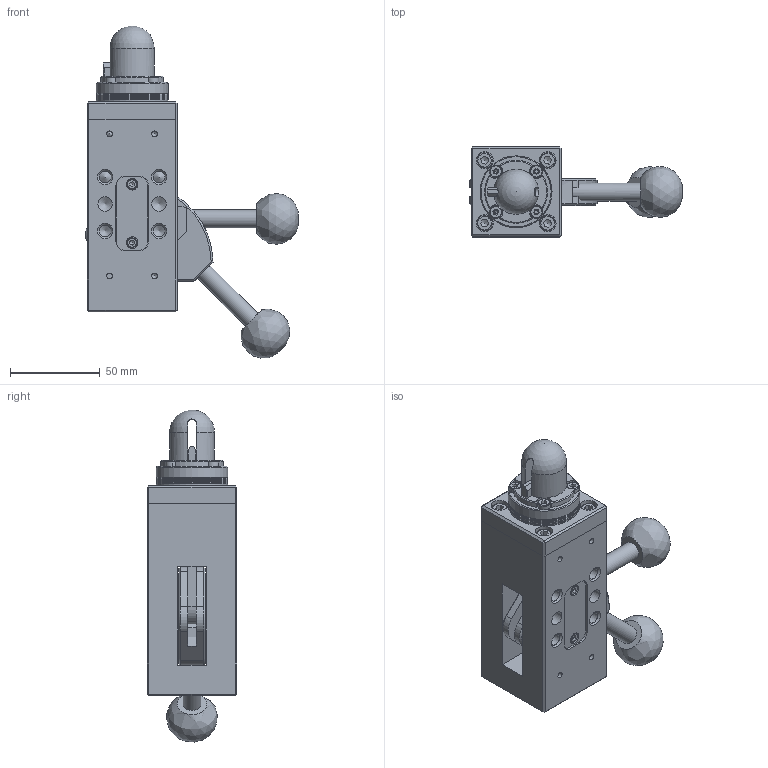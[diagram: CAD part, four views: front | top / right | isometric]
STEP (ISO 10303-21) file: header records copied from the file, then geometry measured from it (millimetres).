
FILE_DESCRIPTION(/* description */ (''),/* implementation_level */ '2;1');
FILE_NAME(/* name */ 'S:\Tom\INVENTOR FILES\AUTOMOTIVE\UNDERBODY CLAMPS\XPCB\SIMPLIFIED MODELS\STEP\XPCB-25-01-NS.stp',/* time_stamp */ '2021-06-08T10:19:54+01:00',/* author */ ('RWilson'),/* organization */ (''),/* preprocessor_version */ 'ST-DEVELOPER v18.1',/* originating_system */ 'Autodesk Inventor 2021',/* authorisation */ '');
FILE_SCHEMA (('AUTOMOTIVE_DESIGN { 1 0 10303 214 3 1 1 }'));
Length unit declared in the file: millimetre
Products named in the file (9): XPCB-25-01; XPCB - BODY; XPCB - HANDLE; XPCB - TOP PLATE; XPCB - 1MM SHIM; XPCB - 0.5MM SHIM; XPCB - 25MM CLAMPING RING & PIN; XPCB - 25MM HOOK; XPCB - BLANKING COVER
Assembly tree (13 placements, depth 2):
  XPCB-25-01
    XPCB - BODY
    XPCB - HANDLE  x2
    XPCB - TOP PLATE
    XPCB - 0.5MM SHIM  x2
    XPCB - 1MM SHIM  x3
    XPCB - 25MM CLAMPING RING & PIN
    XPCB - 25MM HOOK
    XPCB - BLANKING COVER  x2
Bounding box: 118.38 x 50 x 184.64 mm (x, y, z)
Volume: 344249.2 mm3; surface area: 103754.1 mm2
Topology: 13 solids, 27 shells, 576 faces, 1522 edges, 1014 vertices
Faces by surface type: plane 277, cylinder 169, cone 113, torus 10, bspline 6, sphere 1
Full cylindrical faces by diameter (mm): 2 x4, 2.459 x4, 3 x8, 3.2 x4, 3.242 x8, 4 x4, 4.5 x4, 4.917 x3, 5.5 x4, 6 x3, 6.5 x4, 6.6 x3, 6.647 x12, 8 x6, 8.376 x2, 8.5 x4, 9.5 x4, 10 x5, 40 x6
Entity records: 14802 total; most frequent: CARTESIAN_POINT 2895, DIRECTION 2526, ORIENTED_EDGE 2370, EDGE_CURVE 1185, AXIS2_PLACEMENT_3D 967, VERTEX_POINT 820, LINE 592, VECTOR 592
